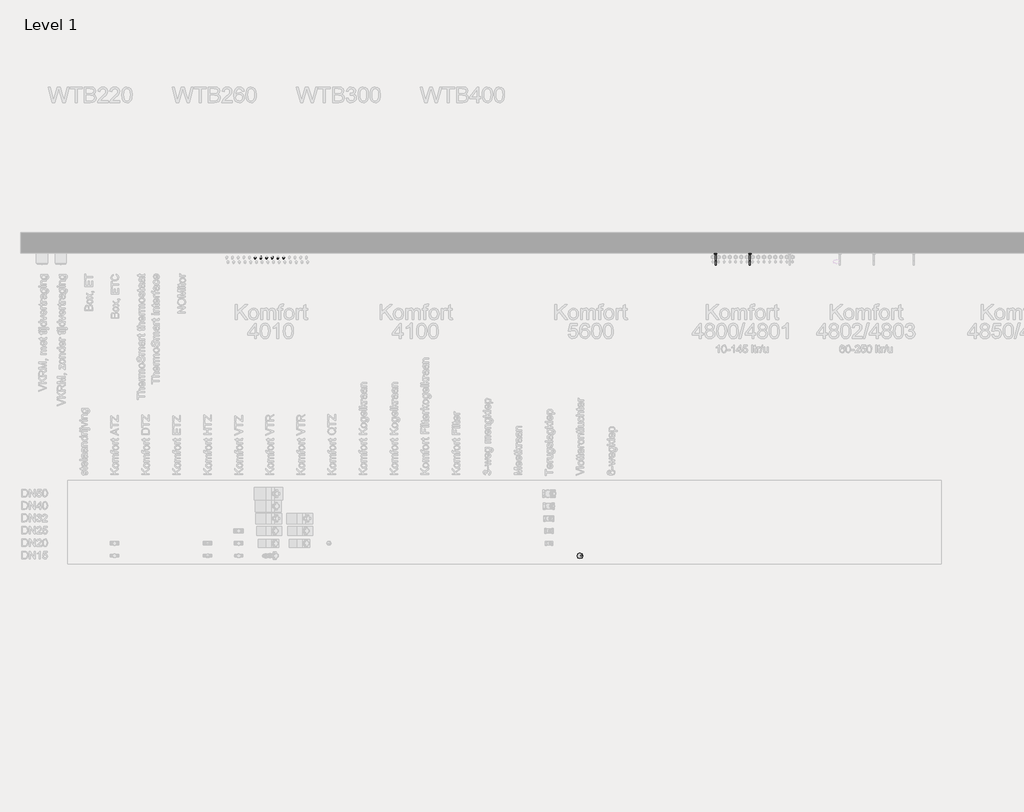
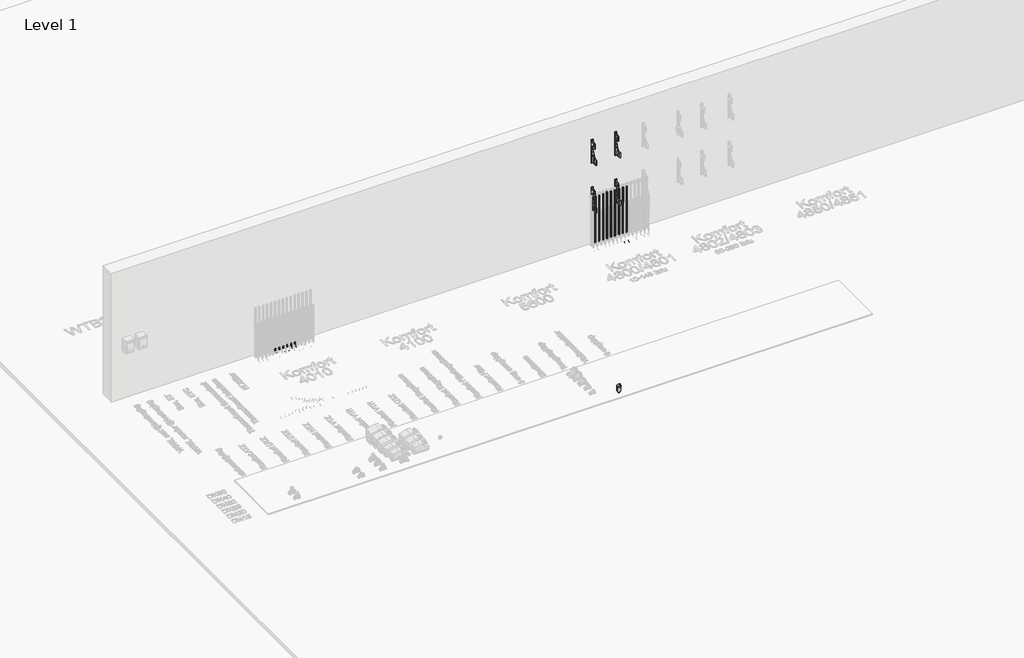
# One storey, part 6 of 34: 39 pipe segments, 11 pipe fittings, 4 proxies, 1 valve.
"""IFC4 building model written with IfcOpenShell, lengths in millimetres."""

from ifc_helpers import new_model, si_unit, point, frame, frame_2d, origin, place, context, project, spatial, circle_curve, trimmed, segment, composite_curve, outline, extrude, transform, mapped, element, save
from components import mechanical_equipment_e809440a, comfort_pipe_plus_5c14e1aa, comfort_pipe_plus_d9ac523e, valve_2dd8f752

model = new_model("IFC4")

# Units and contexts
model_context = context("Model", 3, world=origin())
ifc_project = project(units=[si_unit("LENGTHUNIT", "METRE", prefix="MILLI")], contexts=[model_context])

# Site, building, storey
site = spatial("IfcSite", under=ifc_project)
building = spatial("IfcBuilding", under=site)
storey = spatial("IfcBuildingStorey", under=building, Name="Level 1", Elevation=0.0)

# Proxies
placement = place(None, origin())
mechanical_equipment_shape = mechanical_equipment_e809440a(model_context)
element("IfcBuildingElementProxy", 1, Name="400_56_KOMF_montagebeugel_2 : 400_56_KOMF_montagebeugel_2", ObjectType="400_56_KOMF_montagebeugel_2 : 400_56_KOMF_montagebeugel_2", at=placement, inside=storey, context=model_context, shape_type="MappedRepresentation", body=[
    mapped(mechanical_equipment_shape, transform((-10536.6827235, 7589.9863889, 1200.0), x_axis=(1.0, 0.0, 0.0), y_axis=(0.0, 0.0, 1.0), z_axis=(0.0, -1.0, 0.0))),
])
element("IfcBuildingElementProxy", 2, Name="400_56_KOMF_montagebeugel_2 : 400_56_KOMF_montagebeugel_2", ObjectType="400_56_KOMF_montagebeugel_2 : 400_56_KOMF_montagebeugel_2", at=placement, inside=storey, context=model_context, shape_type="MappedRepresentation", body=[
    mapped(mechanical_equipment_shape, transform((-10206.6827235, 7589.9863889, 1200.0), x_axis=(1.0, 0.0, 0.0), y_axis=(0.0, 0.0, 1.0), z_axis=(0.0, -1.0, 0.0))),
])
element("IfcBuildingElementProxy", 3, Name="400_56_KOMF_montagebeugel_2 : 400_56_KOMF_montagebeugel_2", ObjectType="400_56_KOMF_montagebeugel_2 : 400_56_KOMF_montagebeugel_2", at=placement, inside=storey, context=model_context, shape_type="MappedRepresentation", body=[
    mapped(mechanical_equipment_shape, transform((-10536.6827235, 7589.9863889, 500.0), x_axis=(1.0, 0.0, 0.0), y_axis=(0.0, 0.0, 1.0), z_axis=(0.0, -1.0, 0.0))),
])
element("IfcBuildingElementProxy", 4, Name="400_56_KOMF_montagebeugel_2 : 400_56_KOMF_montagebeugel_2", ObjectType="400_56_KOMF_montagebeugel_2 : 400_56_KOMF_montagebeugel_2", at=placement, inside=storey, context=model_context, shape_type="MappedRepresentation", body=[
    mapped(mechanical_equipment_shape, transform((-10206.6827235, 7589.9863889, 500.0), x_axis=(1.0, 0.0, 0.0), y_axis=(0.0, 0.0, 1.0), z_axis=(0.0, -1.0, 0.0))),
])

# Pipe fittings
comfort_pipe_plus_shape = comfort_pipe_plus_5c14e1aa(model_context)
element("IfcPipeFitting", 5, ObjectType="400_5-_Uponor_curved_Elbow : Comfort pipe PLUS", at=placement, inside=storey, context=model_context, shape_type="MappedRepresentation", body=[
    mapped(comfort_pipe_plus_shape, transform((-14729.4849522, 7437.4403177, -40.0), x_axis=(-0.14136609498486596, -0.9899573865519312, 0.0), y_axis=(0.9899573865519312, -0.14136609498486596, 0.0), z_axis=(0.0, 0.0, 1.0))),
])
element("IfcPipeFitting", 6, ObjectType="400_5-_Uponor_curved_Elbow : Comfort pipe PLUS", at=placement, inside=storey, context=model_context, shape_type="MappedRepresentation", body=[
    mapped(comfort_pipe_plus_shape, transform((-14784.4849522, 7437.4403177, -40.0), x_axis=(-0.1413660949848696, -0.9899573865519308, 0.0), y_axis=(0.9899573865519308, -0.1413660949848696, 0.0), z_axis=(0.0, 0.0, 1.0))),
])
element("IfcPipeFitting", 7, ObjectType="400_5-_Uponor_curved_Elbow : Comfort pipe PLUS", at=placement, inside=storey, context=model_context, shape_type="MappedRepresentation", body=[
    mapped(comfort_pipe_plus_shape, transform((-14839.4849522, 7437.4403177, -40.0), x_axis=(-0.1413660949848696, -0.9899573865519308, 0.0), y_axis=(0.9899573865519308, -0.1413660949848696, 0.0), z_axis=(0.0, 0.0, 1.0))),
])
element("IfcPipeFitting", 8, ObjectType="400_5-_Uponor_curved_Elbow : Comfort pipe PLUS", at=placement, inside=storey, context=model_context, shape_type="MappedRepresentation", body=[
    mapped(comfort_pipe_plus_shape, transform((-14894.4849522, 7437.4403177, -40.0), x_axis=(-0.14136609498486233, -0.9899573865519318, 0.0), y_axis=(0.9899573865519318, -0.14136609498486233, 0.0), z_axis=(0.0, 0.0, 1.0))),
])
element("IfcPipeFitting", 9, ObjectType="400_5-_Uponor_curved_Elbow : Comfort pipe PLUS", at=placement, inside=storey, context=model_context, shape_type="MappedRepresentation", body=[
    mapped(comfort_pipe_plus_shape, transform((-14949.4849522, 7437.4403177, -40.0), x_axis=(-0.14136609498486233, -0.9899573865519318, 0.0), y_axis=(0.9899573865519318, -0.14136609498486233, 0.0), z_axis=(0.0, 0.0, 1.0))),
])
comfort_pipe_plus_2_shape = comfort_pipe_plus_d9ac523e(model_context)
element("IfcPipeFitting", 10, ObjectType="400_5-_Uponor_curved_Elbow : Comfort pipe PLUS", at=placement, inside=storey, context=model_context, shape_type="MappedRepresentation", body=[
    mapped(comfort_pipe_plus_2_shape, transform((-14712.9849522, 7552.9863889, -40.0), x_axis=(0.0, 0.0, -1.0), y_axis=(-0.14136609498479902, -0.9899573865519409, 0.0), z_axis=(-0.9899573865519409, 0.14136609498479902, 0.0))),
])
element("IfcPipeFitting", 11, ObjectType="400_5-_Uponor_curved_Elbow : Comfort pipe PLUS", at=placement, inside=storey, context=model_context, shape_type="MappedRepresentation", body=[
    mapped(comfort_pipe_plus_2_shape, transform((-14767.9849522, 7552.9863889, -40.0), x_axis=(0.0, 0.0, -1.0), y_axis=(-0.14136609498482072, -0.9899573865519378, 0.0), z_axis=(-0.9899573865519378, 0.14136609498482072, 0.0))),
])
element("IfcPipeFitting", 12, ObjectType="400_5-_Uponor_curved_Elbow : Comfort pipe PLUS", at=placement, inside=storey, context=model_context, shape_type="MappedRepresentation", body=[
    mapped(comfort_pipe_plus_2_shape, transform((-14822.9849522, 7552.9863889, -40.0), x_axis=(0.0, 0.0, -1.0), y_axis=(-0.14136609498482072, -0.9899573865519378, 0.0), z_axis=(-0.9899573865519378, 0.14136609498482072, 0.0))),
])
element("IfcPipeFitting", 13, ObjectType="400_5-_Uponor_curved_Elbow : Comfort pipe PLUS", at=placement, inside=storey, context=model_context, shape_type="MappedRepresentation", body=[
    mapped(comfort_pipe_plus_2_shape, transform((-14877.9849522, 7552.9863889, -40.0), x_axis=(0.0, 0.0, -1.0), y_axis=(-0.141366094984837, -0.9899573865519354, 0.0), z_axis=(-0.9899573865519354, 0.141366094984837, 0.0))),
])
element("IfcPipeFitting", 14, ObjectType="400_5-_Uponor_curved_Elbow : Comfort pipe PLUS", at=placement, inside=storey, context=model_context, shape_type="MappedRepresentation", body=[
    mapped(comfort_pipe_plus_2_shape, transform((-14932.9849522, 7552.9863889, -40.0), x_axis=(0.0, 0.0, -1.0), y_axis=(-0.141366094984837, -0.9899573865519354, 0.0), z_axis=(-0.9899573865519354, 0.141366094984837, 0.0))),
])
element("IfcPipeFitting", 15, ObjectType="400_5-_Uponor_curved_Elbow : Comfort pipe PLUS", at=placement, inside=storey, context=model_context, shape_type="MappedRepresentation", body=[
    mapped(comfort_pipe_plus_2_shape, transform((-14987.9849522, 7552.9863889, -40.0), x_axis=(0.0, 0.0, -1.0), y_axis=(-0.14136609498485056, -0.9899573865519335, 0.0), z_axis=(-0.9899573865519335, 0.14136609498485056, 0.0))),
])

# Pipe segments
element("IfcPipeSegment", 16, ObjectType="Uponor Comfort Pipe PLUS / VVL", at=placement, inside=storey, context=model_context, shape_type="SweptSolid", body=[
    extrude(outline(composite_curve([segment(trimmed(circle_curve(frame_2d((-43.6490683, -10509.1827235)), 8.5), [point((-43.6490683, -10500.6827235))], [point((-35.1490683, -10509.1827235))], False, "CARTESIAN"), True, "CONTINUOUS"), segment(trimmed(circle_curve(frame_2d((-43.6490683, -10509.1827235)), 8.5), [point((-35.1490683, -10509.1827235))], [point((-43.6490683, -10517.6827235))], False, "CARTESIAN"), True, "CONTINUOUS"), segment(trimmed(circle_curve(frame_2d((-43.6490683, -10509.1827235)), 8.5), [point((-43.6490683, -10517.6827235))], [point((-52.1490683, -10509.1827235))], False, "CARTESIAN"), True, "CONTINUOUS"), segment(trimmed(circle_curve(frame_2d((-43.6490683, -10509.1827235)), 8.5), [point((-52.1490683, -10509.1827235))], [point((-43.6490683, -10500.6827235))], False, "CARTESIAN"), True, "CONTINUOUS")], self_intersect=False)), frame((0.0, 7193.8942465, 0.0), z_axis=(0.0, 1.0, 0.0), x_axis=(0.0, 0.0, 1.0)), (0.0, 0.0, 1.0), 245.9527973),
])
element("IfcPipeSegment", 17, ObjectType="Uponor Comfort Pipe PLUS / VVL", at=placement, inside=storey, context=model_context, shape_type="SweptSolid", body=[
    extrude(outline(composite_curve([segment(trimmed(circle_curve(frame_2d((-43.6490683, -10536.6827235)), 8.5), [point((-43.6490683, -10545.1827235))], [point((-52.1490683, -10536.6827235))], False, "CARTESIAN"), True, "CONTINUOUS"), segment(trimmed(circle_curve(frame_2d((-43.6490683, -10536.6827235)), 8.5), [point((-52.1490683, -10536.6827235))], [point((-43.6490683, -10528.1827235))], False, "CARTESIAN"), True, "CONTINUOUS"), segment(trimmed(circle_curve(frame_2d((-43.6490683, -10536.6827235)), 8.5), [point((-43.6490683, -10528.1827235))], [point((-35.1490683, -10536.6827235))], False, "CARTESIAN"), True, "CONTINUOUS"), segment(trimmed(circle_curve(frame_2d((-43.6490683, -10536.6827235)), 8.5), [point((-35.1490683, -10536.6827235))], [point((-43.6490683, -10545.1827235))], False, "CARTESIAN"), True, "CONTINUOUS")], self_intersect=False)), frame((0.0, 7193.8942465, 0.0), z_axis=(0.0, 1.0, 0.0), x_axis=(0.0, 0.0, 1.0)), (0.0, 0.0, 1.0), 232.339135),
])
element("IfcPipeSegment", 18, ObjectType="Uponor Comfort Pipe PLUS / VVL", at=placement, inside=storey, context=model_context, shape_type="SweptSolid", body=[
    extrude(outline(composite_curve([segment(trimmed(circle_curve(frame_2d((0.0, 8.5)), 8.5), [point((8.5, 8.5))], [point((0.0, 0.0))], False, "CARTESIAN"), True, "CONTINUOUS"), segment(trimmed(circle_curve(frame_2d((0.0, 8.5)), 8.5), [point((0.0, 0.0))], [point((-8.5, 8.5))], False, "CARTESIAN"), True, "CONTINUOUS"), segment(trimmed(circle_curve(frame_2d((0.0, 8.5)), 8.5), [point((-8.5, 8.5))], [point((0.0, 17.0))], False, "CARTESIAN"), True, "CONTINUOUS"), segment(trimmed(circle_curve(frame_2d((0.0, 8.5)), 8.5), [point((0.0, 17.0))], [point((8.5, 8.5))], False, "CARTESIAN"), True, "CONTINUOUS")], self_intersect=False)), frame((-10534.878101, 7442.0254837, -35.1490683), z_axis=(0.22560146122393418, 0.9742196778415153, 0.0), x_axis=(0.9742196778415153, -0.22560146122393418, 0.0)), (0.0, 0.0, 1.0), 43.897212),
])
element("IfcPipeSegment", 19, ObjectType="Uponor Comfort Pipe PLUS / VVL", at=placement, inside=storey, context=model_context, shape_type="SweptSolid", body=[
    extrude(outline(composite_curve([segment(trimmed(circle_curve(frame_2d((-10509.1827235, 7552.9863889)), 8.5), [point((-10517.6827235, 7552.9863889))], [point((-10509.1827235, 7561.4863889))], False, "CARTESIAN"), True, "CONTINUOUS"), segment(trimmed(circle_curve(frame_2d((-10509.1827235, 7552.9863889)), 8.5), [point((-10509.1827235, 7561.4863889))], [point((-10500.6827235, 7552.9863889))], False, "CARTESIAN"), True, "CONTINUOUS"), segment(trimmed(circle_curve(frame_2d((-10509.1827235, 7552.9863889)), 8.5), [point((-10500.6827235, 7552.9863889))], [point((-10509.1827235, 7544.4863889))], False, "CARTESIAN"), True, "CONTINUOUS"), segment(trimmed(circle_curve(frame_2d((-10509.1827235, 7552.9863889)), 8.5), [point((-10509.1827235, 7544.4863889))], [point((-10517.6827235, 7552.9863889))], False, "CARTESIAN"), True, "CONTINUOUS")], self_intersect=False)), frame((0.0, 0.0, 26.3509317), z_axis=(0.0, 0.0, 1.0), x_axis=(1.0, 0.0, 0.0)), (0.0, 0.0, 1.0), 703.6490683),
])
element("IfcPipeSegment", 20, ObjectType="Uponor Comfort Pipe PLUS / VVL", at=placement, inside=storey, context=model_context, shape_type="SweptSolid", body=[
    extrude(outline(composite_curve([segment(trimmed(circle_curve(frame_2d((-43.6490683, -10454.1827235)), 8.5), [point((-43.6490683, -10445.6827235))], [point((-35.1490683, -10454.1827235))], False, "CARTESIAN"), True, "CONTINUOUS"), segment(trimmed(circle_curve(frame_2d((-43.6490683, -10454.1827235)), 8.5), [point((-35.1490683, -10454.1827235))], [point((-43.6490683, -10462.6827235))], False, "CARTESIAN"), True, "CONTINUOUS"), segment(trimmed(circle_curve(frame_2d((-43.6490683, -10454.1827235)), 8.5), [point((-43.6490683, -10462.6827235))], [point((-52.1490683, -10454.1827235))], False, "CARTESIAN"), True, "CONTINUOUS"), segment(trimmed(circle_curve(frame_2d((-43.6490683, -10454.1827235)), 8.5), [point((-52.1490683, -10454.1827235))], [point((-43.6490683, -10445.6827235))], False, "CARTESIAN"), True, "CONTINUOUS")], self_intersect=False)), frame((0.0, 7193.8942465, 0.0), z_axis=(0.0, 1.0, 0.0), x_axis=(0.0, 0.0, 1.0)), (0.0, 0.0, 1.0), 245.9527973),
])
element("IfcPipeSegment", 21, ObjectType="Uponor Comfort Pipe PLUS / VVL", at=placement, inside=storey, context=model_context, shape_type="SweptSolid", body=[
    extrude(outline(composite_curve([segment(trimmed(circle_curve(frame_2d((-43.6490683, -10481.6827235)), 8.5), [point((-43.6490683, -10490.1827235))], [point((-52.1490683, -10481.6827235))], False, "CARTESIAN"), True, "CONTINUOUS"), segment(trimmed(circle_curve(frame_2d((-43.6490683, -10481.6827235)), 8.5), [point((-52.1490683, -10481.6827235))], [point((-43.6490683, -10473.1827235))], False, "CARTESIAN"), True, "CONTINUOUS"), segment(trimmed(circle_curve(frame_2d((-43.6490683, -10481.6827235)), 8.5), [point((-43.6490683, -10473.1827235))], [point((-35.1490683, -10481.6827235))], False, "CARTESIAN"), True, "CONTINUOUS"), segment(trimmed(circle_curve(frame_2d((-43.6490683, -10481.6827235)), 8.5), [point((-35.1490683, -10481.6827235))], [point((-43.6490683, -10490.1827235))], False, "CARTESIAN"), True, "CONTINUOUS")], self_intersect=False)), frame((0.0, 7193.8942465, 0.0), z_axis=(0.0, 1.0, 0.0), x_axis=(0.0, 0.0, 1.0)), (0.0, 0.0, 1.0), 232.339135),
])
element("IfcPipeSegment", 22, ObjectType="Uponor Comfort Pipe PLUS / VVL", at=placement, inside=storey, context=model_context, shape_type="SweptSolid", body=[
    extrude(outline(composite_curve([segment(trimmed(circle_curve(frame_2d((0.0, 8.5)), 8.5), [point((8.5, 8.5))], [point((0.0, 0.0))], False, "CARTESIAN"), True, "CONTINUOUS"), segment(trimmed(circle_curve(frame_2d((0.0, 8.5)), 8.5), [point((0.0, 0.0))], [point((-8.5, 8.5))], False, "CARTESIAN"), True, "CONTINUOUS"), segment(trimmed(circle_curve(frame_2d((0.0, 8.5)), 8.5), [point((-8.5, 8.5))], [point((0.0, 17.0))], False, "CARTESIAN"), True, "CONTINUOUS"), segment(trimmed(circle_curve(frame_2d((0.0, 8.5)), 8.5), [point((0.0, 17.0))], [point((8.5, 8.5))], False, "CARTESIAN"), True, "CONTINUOUS")], self_intersect=False)), frame((-10479.878101, 7442.0254837, -35.1490683), z_axis=(0.2256014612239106, 0.9742196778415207, 0.0), x_axis=(0.9742196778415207, -0.2256014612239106, 0.0)), (0.0, 0.0, 1.0), 43.897212),
])
element("IfcPipeSegment", 23, ObjectType="Uponor Comfort Pipe PLUS / VVL", at=placement, inside=storey, context=model_context, shape_type="SweptSolid", body=[
    extrude(outline(composite_curve([segment(trimmed(circle_curve(frame_2d((-10454.1827235, 7552.9863889)), 8.5), [point((-10462.6827235, 7552.9863889))], [point((-10454.1827235, 7561.4863889))], False, "CARTESIAN"), True, "CONTINUOUS"), segment(trimmed(circle_curve(frame_2d((-10454.1827235, 7552.9863889)), 8.5), [point((-10454.1827235, 7561.4863889))], [point((-10445.6827235, 7552.9863889))], False, "CARTESIAN"), True, "CONTINUOUS"), segment(trimmed(circle_curve(frame_2d((-10454.1827235, 7552.9863889)), 8.5), [point((-10445.6827235, 7552.9863889))], [point((-10454.1827235, 7544.4863889))], False, "CARTESIAN"), True, "CONTINUOUS"), segment(trimmed(circle_curve(frame_2d((-10454.1827235, 7552.9863889)), 8.5), [point((-10454.1827235, 7544.4863889))], [point((-10462.6827235, 7552.9863889))], False, "CARTESIAN"), True, "CONTINUOUS")], self_intersect=False)), frame((0.0, 0.0, 26.3509317), z_axis=(0.0, 0.0, 1.0), x_axis=(1.0, 0.0, 0.0)), (0.0, 0.0, 1.0), 703.6490683),
])
element("IfcPipeSegment", 24, ObjectType="Uponor Comfort Pipe PLUS / VVL", at=placement, inside=storey, context=model_context, shape_type="SweptSolid", body=[
    extrude(outline(composite_curve([segment(trimmed(circle_curve(frame_2d((-43.6490683, -10399.1827235)), 8.5), [point((-43.6490683, -10390.6827235))], [point((-35.1490683, -10399.1827235))], False, "CARTESIAN"), True, "CONTINUOUS"), segment(trimmed(circle_curve(frame_2d((-43.6490683, -10399.1827235)), 8.5), [point((-35.1490683, -10399.1827235))], [point((-43.6490683, -10407.6827235))], False, "CARTESIAN"), True, "CONTINUOUS"), segment(trimmed(circle_curve(frame_2d((-43.6490683, -10399.1827235)), 8.5), [point((-43.6490683, -10407.6827235))], [point((-52.1490683, -10399.1827235))], False, "CARTESIAN"), True, "CONTINUOUS"), segment(trimmed(circle_curve(frame_2d((-43.6490683, -10399.1827235)), 8.5), [point((-52.1490683, -10399.1827235))], [point((-43.6490683, -10390.6827235))], False, "CARTESIAN"), True, "CONTINUOUS")], self_intersect=False)), frame((0.0, 7193.8942465, 0.0), z_axis=(0.0, 1.0, 0.0), x_axis=(0.0, 0.0, 1.0)), (0.0, 0.0, 1.0), 245.9527973),
])
element("IfcPipeSegment", 25, ObjectType="Uponor Comfort Pipe PLUS / VVL", at=placement, inside=storey, context=model_context, shape_type="SweptSolid", body=[
    extrude(outline(composite_curve([segment(trimmed(circle_curve(frame_2d((-43.6490683, -10426.6827235)), 8.5), [point((-43.6490683, -10435.1827235))], [point((-52.1490683, -10426.6827235))], False, "CARTESIAN"), True, "CONTINUOUS"), segment(trimmed(circle_curve(frame_2d((-43.6490683, -10426.6827235)), 8.5), [point((-52.1490683, -10426.6827235))], [point((-43.6490683, -10418.1827235))], False, "CARTESIAN"), True, "CONTINUOUS"), segment(trimmed(circle_curve(frame_2d((-43.6490683, -10426.6827235)), 8.5), [point((-43.6490683, -10418.1827235))], [point((-35.1490683, -10426.6827235))], False, "CARTESIAN"), True, "CONTINUOUS"), segment(trimmed(circle_curve(frame_2d((-43.6490683, -10426.6827235)), 8.5), [point((-35.1490683, -10426.6827235))], [point((-43.6490683, -10435.1827235))], False, "CARTESIAN"), True, "CONTINUOUS")], self_intersect=False)), frame((0.0, 7193.8942465, 0.0), z_axis=(0.0, 1.0, 0.0), x_axis=(0.0, 0.0, 1.0)), (0.0, 0.0, 1.0), 232.339135),
])
element("IfcPipeSegment", 26, ObjectType="Uponor Comfort Pipe PLUS / VVL", at=placement, inside=storey, context=model_context, shape_type="SweptSolid", body=[
    extrude(outline(composite_curve([segment(trimmed(circle_curve(frame_2d((0.0, 8.5)), 8.5), [point((8.5, 8.5))], [point((0.0, 0.0))], False, "CARTESIAN"), True, "CONTINUOUS"), segment(trimmed(circle_curve(frame_2d((0.0, 8.5)), 8.5), [point((0.0, 0.0))], [point((-8.5, 8.5))], False, "CARTESIAN"), True, "CONTINUOUS"), segment(trimmed(circle_curve(frame_2d((0.0, 8.5)), 8.5), [point((-8.5, 8.5))], [point((0.0, 17.0))], False, "CARTESIAN"), True, "CONTINUOUS"), segment(trimmed(circle_curve(frame_2d((0.0, 8.5)), 8.5), [point((0.0, 17.0))], [point((8.5, 8.5))], False, "CARTESIAN"), True, "CONTINUOUS")], self_intersect=False)), frame((-10424.878101, 7442.0254837, -35.1490683), z_axis=(0.22560146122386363, 0.9742196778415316, 0.0), x_axis=(0.9742196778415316, -0.22560146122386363, 0.0)), (0.0, 0.0, 1.0), 43.897212),
])
element("IfcPipeSegment", 27, ObjectType="Uponor Comfort Pipe PLUS / VVL", at=placement, inside=storey, context=model_context, shape_type="SweptSolid", body=[
    extrude(outline(composite_curve([segment(trimmed(circle_curve(frame_2d((-10399.1827235, 7552.9863889)), 8.5), [point((-10407.6827235, 7552.9863889))], [point((-10399.1827235, 7561.4863889))], False, "CARTESIAN"), True, "CONTINUOUS"), segment(trimmed(circle_curve(frame_2d((-10399.1827235, 7552.9863889)), 8.5), [point((-10399.1827235, 7561.4863889))], [point((-10390.6827235, 7552.9863889))], False, "CARTESIAN"), True, "CONTINUOUS"), segment(trimmed(circle_curve(frame_2d((-10399.1827235, 7552.9863889)), 8.5), [point((-10390.6827235, 7552.9863889))], [point((-10399.1827235, 7544.4863889))], False, "CARTESIAN"), True, "CONTINUOUS"), segment(trimmed(circle_curve(frame_2d((-10399.1827235, 7552.9863889)), 8.5), [point((-10399.1827235, 7544.4863889))], [point((-10407.6827235, 7552.9863889))], False, "CARTESIAN"), True, "CONTINUOUS")], self_intersect=False)), frame((0.0, 0.0, 26.3509317), z_axis=(0.0, 0.0, 1.0), x_axis=(1.0, 0.0, 0.0)), (0.0, 0.0, 1.0), 703.6490683),
])
element("IfcPipeSegment", 28, ObjectType="Uponor Comfort Pipe PLUS / VVL", at=placement, inside=storey, context=model_context, shape_type="SweptSolid", body=[
    extrude(outline(composite_curve([segment(trimmed(circle_curve(frame_2d((-43.6490683, -10344.1827235)), 8.5), [point((-43.6490683, -10335.6827235))], [point((-35.1490683, -10344.1827235))], False, "CARTESIAN"), True, "CONTINUOUS"), segment(trimmed(circle_curve(frame_2d((-43.6490683, -10344.1827235)), 8.5), [point((-35.1490683, -10344.1827235))], [point((-43.6490683, -10352.6827235))], False, "CARTESIAN"), True, "CONTINUOUS"), segment(trimmed(circle_curve(frame_2d((-43.6490683, -10344.1827235)), 8.5), [point((-43.6490683, -10352.6827235))], [point((-52.1490683, -10344.1827235))], False, "CARTESIAN"), True, "CONTINUOUS"), segment(trimmed(circle_curve(frame_2d((-43.6490683, -10344.1827235)), 8.5), [point((-52.1490683, -10344.1827235))], [point((-43.6490683, -10335.6827235))], False, "CARTESIAN"), True, "CONTINUOUS")], self_intersect=False)), frame((0.0, 7193.8942465, 0.0), z_axis=(0.0, 1.0, 0.0), x_axis=(0.0, 0.0, 1.0)), (0.0, 0.0, 1.0), 245.9527973),
])
element("IfcPipeSegment", 29, ObjectType="Uponor Comfort Pipe PLUS / VVL", at=placement, inside=storey, context=model_context, shape_type="SweptSolid", body=[
    extrude(outline(composite_curve([segment(trimmed(circle_curve(frame_2d((-43.6490683, -10371.6827235)), 8.5), [point((-43.6490683, -10363.1827235))], [point((-35.1490683, -10371.6827235))], False, "CARTESIAN"), True, "CONTINUOUS"), segment(trimmed(circle_curve(frame_2d((-43.6490683, -10371.6827235)), 8.5), [point((-35.1490683, -10371.6827235))], [point((-43.6490683, -10380.1827235))], False, "CARTESIAN"), True, "CONTINUOUS"), segment(trimmed(circle_curve(frame_2d((-43.6490683, -10371.6827235)), 8.5), [point((-43.6490683, -10380.1827235))], [point((-52.1490683, -10371.6827235))], False, "CARTESIAN"), True, "CONTINUOUS"), segment(trimmed(circle_curve(frame_2d((-43.6490683, -10371.6827235)), 8.5), [point((-52.1490683, -10371.6827235))], [point((-43.6490683, -10363.1827235))], False, "CARTESIAN"), True, "CONTINUOUS")], self_intersect=False)), frame((0.0, 7193.8942465, 0.0), z_axis=(0.0, 1.0, 0.0), x_axis=(0.0, 0.0, 1.0)), (0.0, 0.0, 1.0), 232.339135),
])
element("IfcPipeSegment", 30, ObjectType="Uponor Comfort Pipe PLUS / VVL", at=placement, inside=storey, context=model_context, shape_type="SweptSolid", body=[
    extrude(outline(composite_curve([segment(trimmed(circle_curve(frame_2d((0.0, 8.5)), 8.5), [point((8.5, 8.5))], [point((0.0, 0.0))], False, "CARTESIAN"), True, "CONTINUOUS"), segment(trimmed(circle_curve(frame_2d((0.0, 8.5)), 8.5), [point((0.0, 0.0))], [point((-8.5, 8.5))], False, "CARTESIAN"), True, "CONTINUOUS"), segment(trimmed(circle_curve(frame_2d((0.0, 8.5)), 8.5), [point((-8.5, 8.5))], [point((0.0, 17.0))], False, "CARTESIAN"), True, "CONTINUOUS"), segment(trimmed(circle_curve(frame_2d((0.0, 8.5)), 8.5), [point((0.0, 17.0))], [point((8.5, 8.5))], False, "CARTESIAN"), True, "CONTINUOUS")], self_intersect=False)), frame((-10369.878101, 7442.0254837, -35.1490683), z_axis=(0.22560146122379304, 0.974219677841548, 0.0), x_axis=(0.974219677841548, -0.22560146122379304, 0.0)), (0.0, 0.0, 1.0), 43.897212),
])
element("IfcPipeSegment", 31, ObjectType="Uponor Comfort Pipe PLUS / VVL", at=placement, inside=storey, context=model_context, shape_type="SweptSolid", body=[
    extrude(outline(composite_curve([segment(trimmed(circle_curve(frame_2d((-10344.1827235, 7552.9863889)), 8.5), [point((-10352.6827235, 7552.9863889))], [point((-10344.1827235, 7561.4863889))], False, "CARTESIAN"), True, "CONTINUOUS"), segment(trimmed(circle_curve(frame_2d((-10344.1827235, 7552.9863889)), 8.5), [point((-10344.1827235, 7561.4863889))], [point((-10335.6827235, 7552.9863889))], False, "CARTESIAN"), True, "CONTINUOUS"), segment(trimmed(circle_curve(frame_2d((-10344.1827235, 7552.9863889)), 8.5), [point((-10335.6827235, 7552.9863889))], [point((-10344.1827235, 7544.4863889))], False, "CARTESIAN"), True, "CONTINUOUS"), segment(trimmed(circle_curve(frame_2d((-10344.1827235, 7552.9863889)), 8.5), [point((-10344.1827235, 7544.4863889))], [point((-10352.6827235, 7552.9863889))], False, "CARTESIAN"), True, "CONTINUOUS")], self_intersect=False)), frame((0.0, 0.0, 26.3509317), z_axis=(0.0, 0.0, 1.0), x_axis=(1.0, 0.0, 0.0)), (0.0, 0.0, 1.0), 703.6490683),
])
element("IfcPipeSegment", 32, ObjectType="Uponor Comfort Pipe PLUS / VVL", at=placement, inside=storey, context=model_context, shape_type="SweptSolid", body=[
    extrude(outline(composite_curve([segment(trimmed(circle_curve(frame_2d((-43.6490683, -10289.1827235)), 8.5), [point((-43.6490683, -10280.6827235))], [point((-35.1490683, -10289.1827235))], False, "CARTESIAN"), True, "CONTINUOUS"), segment(trimmed(circle_curve(frame_2d((-43.6490683, -10289.1827235)), 8.5), [point((-35.1490683, -10289.1827235))], [point((-43.6490683, -10297.6827235))], False, "CARTESIAN"), True, "CONTINUOUS"), segment(trimmed(circle_curve(frame_2d((-43.6490683, -10289.1827235)), 8.5), [point((-43.6490683, -10297.6827235))], [point((-52.1490683, -10289.1827235))], False, "CARTESIAN"), True, "CONTINUOUS"), segment(trimmed(circle_curve(frame_2d((-43.6490683, -10289.1827235)), 8.5), [point((-52.1490683, -10289.1827235))], [point((-43.6490683, -10280.6827235))], False, "CARTESIAN"), True, "CONTINUOUS")], self_intersect=False)), frame((0.0, 7193.8942465, 0.0), z_axis=(0.0, 1.0, 0.0), x_axis=(0.0, 0.0, 1.0)), (0.0, 0.0, 1.0), 245.9527973),
])
element("IfcPipeSegment", 33, ObjectType="Uponor Comfort Pipe PLUS / VVL", at=placement, inside=storey, context=model_context, shape_type="SweptSolid", body=[
    extrude(outline(composite_curve([segment(trimmed(circle_curve(frame_2d((-43.6490683, -10316.6827235)), 8.5), [point((-43.6490683, -10308.1827235))], [point((-35.1490683, -10316.6827235))], False, "CARTESIAN"), True, "CONTINUOUS"), segment(trimmed(circle_curve(frame_2d((-43.6490683, -10316.6827235)), 8.5), [point((-35.1490683, -10316.6827235))], [point((-43.6490683, -10325.1827235))], False, "CARTESIAN"), True, "CONTINUOUS"), segment(trimmed(circle_curve(frame_2d((-43.6490683, -10316.6827235)), 8.5), [point((-43.6490683, -10325.1827235))], [point((-52.1490683, -10316.6827235))], False, "CARTESIAN"), True, "CONTINUOUS"), segment(trimmed(circle_curve(frame_2d((-43.6490683, -10316.6827235)), 8.5), [point((-52.1490683, -10316.6827235))], [point((-43.6490683, -10308.1827235))], False, "CARTESIAN"), True, "CONTINUOUS")], self_intersect=False)), frame((0.0, 7193.8942465, 0.0), z_axis=(0.0, 1.0, 0.0), x_axis=(0.0, 0.0, 1.0)), (0.0, 0.0, 1.0), 232.339135),
])
element("IfcPipeSegment", 34, ObjectType="Uponor Comfort Pipe PLUS / VVL", at=placement, inside=storey, context=model_context, shape_type="SweptSolid", body=[
    extrude(outline(composite_curve([segment(trimmed(circle_curve(frame_2d((0.0, 8.5)), 8.5), [point((8.5, 8.5))], [point((0.0, 0.0))], False, "CARTESIAN"), True, "CONTINUOUS"), segment(trimmed(circle_curve(frame_2d((0.0, 8.5)), 8.5), [point((0.0, 0.0))], [point((-8.5, 8.5))], False, "CARTESIAN"), True, "CONTINUOUS"), segment(trimmed(circle_curve(frame_2d((0.0, 8.5)), 8.5), [point((-8.5, 8.5))], [point((0.0, 17.0))], False, "CARTESIAN"), True, "CONTINUOUS"), segment(trimmed(circle_curve(frame_2d((0.0, 8.5)), 8.5), [point((0.0, 17.0))], [point((8.5, 8.5))], False, "CARTESIAN"), True, "CONTINUOUS")], self_intersect=False)), frame((-10314.878101, 7442.0254837, -35.1490683), z_axis=(0.22560146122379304, 0.974219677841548, 0.0), x_axis=(0.974219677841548, -0.22560146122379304, 0.0)), (0.0, 0.0, 1.0), 43.897212),
])
element("IfcPipeSegment", 35, ObjectType="Uponor Comfort Pipe PLUS / VVL", at=placement, inside=storey, context=model_context, shape_type="SweptSolid", body=[
    extrude(outline(composite_curve([segment(trimmed(circle_curve(frame_2d((-10289.1827235, 7552.9863889)), 8.5), [point((-10297.6827235, 7552.9863889))], [point((-10289.1827235, 7561.4863889))], False, "CARTESIAN"), True, "CONTINUOUS"), segment(trimmed(circle_curve(frame_2d((-10289.1827235, 7552.9863889)), 8.5), [point((-10289.1827235, 7561.4863889))], [point((-10280.6827235, 7552.9863889))], False, "CARTESIAN"), True, "CONTINUOUS"), segment(trimmed(circle_curve(frame_2d((-10289.1827235, 7552.9863889)), 8.5), [point((-10280.6827235, 7552.9863889))], [point((-10289.1827235, 7544.4863889))], False, "CARTESIAN"), True, "CONTINUOUS"), segment(trimmed(circle_curve(frame_2d((-10289.1827235, 7552.9863889)), 8.5), [point((-10289.1827235, 7544.4863889))], [point((-10297.6827235, 7552.9863889))], False, "CARTESIAN"), True, "CONTINUOUS")], self_intersect=False)), frame((0.0, 0.0, 26.3509317), z_axis=(0.0, 0.0, 1.0), x_axis=(1.0, 0.0, 0.0)), (0.0, 0.0, 1.0), 703.6490683),
])
element("IfcPipeSegment", 36, ObjectType="Uponor Comfort Pipe PLUS / VVL", at=placement, inside=storey, context=model_context, shape_type="SweptSolid", body=[
    extrude(outline(composite_curve([segment(trimmed(circle_curve(frame_2d((-43.6490683, -10234.1827235)), 8.5), [point((-43.6490683, -10225.6827235))], [point((-35.1490683, -10234.1827235))], False, "CARTESIAN"), True, "CONTINUOUS"), segment(trimmed(circle_curve(frame_2d((-43.6490683, -10234.1827235)), 8.5), [point((-35.1490683, -10234.1827235))], [point((-43.6490683, -10242.6827235))], False, "CARTESIAN"), True, "CONTINUOUS"), segment(trimmed(circle_curve(frame_2d((-43.6490683, -10234.1827235)), 8.5), [point((-43.6490683, -10242.6827235))], [point((-52.1490683, -10234.1827235))], False, "CARTESIAN"), True, "CONTINUOUS"), segment(trimmed(circle_curve(frame_2d((-43.6490683, -10234.1827235)), 8.5), [point((-52.1490683, -10234.1827235))], [point((-43.6490683, -10225.6827235))], False, "CARTESIAN"), True, "CONTINUOUS")], self_intersect=False)), frame((0.0, 7193.8942465, 0.0), z_axis=(0.0, 1.0, 0.0), x_axis=(0.0, 0.0, 1.0)), (0.0, 0.0, 1.0), 245.9527973),
])
element("IfcPipeSegment", 37, ObjectType="Uponor Comfort Pipe PLUS / VVL", at=placement, inside=storey, context=model_context, shape_type="SweptSolid", body=[
    extrude(outline(composite_curve([segment(trimmed(circle_curve(frame_2d((-43.6490683, -10261.6827235)), 8.5), [point((-43.6490683, -10253.1827235))], [point((-35.1490683, -10261.6827235))], False, "CARTESIAN"), True, "CONTINUOUS"), segment(trimmed(circle_curve(frame_2d((-43.6490683, -10261.6827235)), 8.5), [point((-35.1490683, -10261.6827235))], [point((-43.6490683, -10270.1827235))], False, "CARTESIAN"), True, "CONTINUOUS"), segment(trimmed(circle_curve(frame_2d((-43.6490683, -10261.6827235)), 8.5), [point((-43.6490683, -10270.1827235))], [point((-52.1490683, -10261.6827235))], False, "CARTESIAN"), True, "CONTINUOUS"), segment(trimmed(circle_curve(frame_2d((-43.6490683, -10261.6827235)), 8.5), [point((-52.1490683, -10261.6827235))], [point((-43.6490683, -10253.1827235))], False, "CARTESIAN"), True, "CONTINUOUS")], self_intersect=False)), frame((0.0, 7193.8942465, 0.0), z_axis=(0.0, 1.0, 0.0), x_axis=(0.0, 0.0, 1.0)), (0.0, 0.0, 1.0), 232.339135),
])
element("IfcPipeSegment", 38, ObjectType="Uponor Comfort Pipe PLUS / VVL", at=placement, inside=storey, context=model_context, shape_type="SweptSolid", body=[
    extrude(outline(composite_curve([segment(trimmed(circle_curve(frame_2d((0.0, 8.5)), 8.5), [point((8.5, 8.5))], [point((0.0, 0.0))], False, "CARTESIAN"), True, "CONTINUOUS"), segment(trimmed(circle_curve(frame_2d((0.0, 8.5)), 8.5), [point((0.0, 0.0))], [point((-8.5, 8.5))], False, "CARTESIAN"), True, "CONTINUOUS"), segment(trimmed(circle_curve(frame_2d((0.0, 8.5)), 8.5), [point((-8.5, 8.5))], [point((0.0, 17.0))], False, "CARTESIAN"), True, "CONTINUOUS"), segment(trimmed(circle_curve(frame_2d((0.0, 8.5)), 8.5), [point((0.0, 17.0))], [point((8.5, 8.5))], False, "CARTESIAN"), True, "CONTINUOUS")], self_intersect=False)), frame((-10259.878101, 7442.0254837, -35.1490683), z_axis=(0.22560146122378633, 0.9742196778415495, 0.0), x_axis=(0.9742196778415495, -0.22560146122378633, 0.0)), (0.0, 0.0, 1.0), 43.897212),
])
element("IfcPipeSegment", 39, ObjectType="Uponor Comfort Pipe PLUS / VVL", at=placement, inside=storey, context=model_context, shape_type="SweptSolid", body=[
    extrude(outline(composite_curve([segment(trimmed(circle_curve(frame_2d((-10234.1827235, 7552.9863889)), 8.5), [point((-10242.6827235, 7552.9863889))], [point((-10234.1827235, 7561.4863889))], False, "CARTESIAN"), True, "CONTINUOUS"), segment(trimmed(circle_curve(frame_2d((-10234.1827235, 7552.9863889)), 8.5), [point((-10234.1827235, 7561.4863889))], [point((-10225.6827235, 7552.9863889))], False, "CARTESIAN"), True, "CONTINUOUS"), segment(trimmed(circle_curve(frame_2d((-10234.1827235, 7552.9863889)), 8.5), [point((-10225.6827235, 7552.9863889))], [point((-10234.1827235, 7544.4863889))], False, "CARTESIAN"), True, "CONTINUOUS"), segment(trimmed(circle_curve(frame_2d((-10234.1827235, 7552.9863889)), 8.5), [point((-10234.1827235, 7544.4863889))], [point((-10242.6827235, 7552.9863889))], False, "CARTESIAN"), True, "CONTINUOUS")], self_intersect=False)), frame((0.0, 0.0, 26.3509317), z_axis=(0.0, 0.0, 1.0), x_axis=(1.0, 0.0, 0.0)), (0.0, 0.0, 1.0), 703.6490683),
])
element("IfcPipeSegment", 40, ObjectType="Uponor Comfort Pipe PLUS / VVL", at=placement, inside=storey, context=model_context, shape_type="SweptSolid", body=[
    extrude(outline(composite_curve([segment(trimmed(circle_curve(frame_2d((-43.6490683, -10179.1827235)), 8.5), [point((-43.6490683, -10170.6827235))], [point((-35.1490683, -10179.1827235))], False, "CARTESIAN"), True, "CONTINUOUS"), segment(trimmed(circle_curve(frame_2d((-43.6490683, -10179.1827235)), 8.5), [point((-35.1490683, -10179.1827235))], [point((-43.6490683, -10187.6827235))], False, "CARTESIAN"), True, "CONTINUOUS"), segment(trimmed(circle_curve(frame_2d((-43.6490683, -10179.1827235)), 8.5), [point((-43.6490683, -10187.6827235))], [point((-52.1490683, -10179.1827235))], False, "CARTESIAN"), True, "CONTINUOUS"), segment(trimmed(circle_curve(frame_2d((-43.6490683, -10179.1827235)), 8.5), [point((-52.1490683, -10179.1827235))], [point((-43.6490683, -10170.6827235))], False, "CARTESIAN"), True, "CONTINUOUS")], self_intersect=False)), frame((0.0, 7193.8942465, 0.0), z_axis=(0.0, 1.0, 0.0), x_axis=(0.0, 0.0, 1.0)), (0.0, 0.0, 1.0), 245.9527973),
])
element("IfcPipeSegment", 41, ObjectType="Uponor Comfort Pipe PLUS / VVL", at=placement, inside=storey, context=model_context, shape_type="SweptSolid", body=[
    extrude(outline(composite_curve([segment(trimmed(circle_curve(frame_2d((-43.6490683, -10206.6827235)), 8.5), [point((-43.6490683, -10215.1827235))], [point((-52.1490683, -10206.6827235))], False, "CARTESIAN"), True, "CONTINUOUS"), segment(trimmed(circle_curve(frame_2d((-43.6490683, -10206.6827235)), 8.5), [point((-52.1490683, -10206.6827235))], [point((-43.6490683, -10198.1827235))], False, "CARTESIAN"), True, "CONTINUOUS"), segment(trimmed(circle_curve(frame_2d((-43.6490683, -10206.6827235)), 8.5), [point((-43.6490683, -10198.1827235))], [point((-35.1490683, -10206.6827235))], False, "CARTESIAN"), True, "CONTINUOUS"), segment(trimmed(circle_curve(frame_2d((-43.6490683, -10206.6827235)), 8.5), [point((-35.1490683, -10206.6827235))], [point((-43.6490683, -10215.1827235))], False, "CARTESIAN"), True, "CONTINUOUS")], self_intersect=False)), frame((0.0, 7193.8942465, 0.0), z_axis=(0.0, 1.0, 0.0), x_axis=(0.0, 0.0, 1.0)), (0.0, 0.0, 1.0), 232.339135),
])
element("IfcPipeSegment", 42, ObjectType="Uponor Comfort Pipe PLUS / VVL", at=placement, inside=storey, context=model_context, shape_type="SweptSolid", body=[
    extrude(outline(composite_curve([segment(trimmed(circle_curve(frame_2d((0.0, 8.5)), 8.5), [point((8.5, 8.5))], [point((0.0, 0.0))], False, "CARTESIAN"), True, "CONTINUOUS"), segment(trimmed(circle_curve(frame_2d((0.0, 8.5)), 8.5), [point((0.0, 0.0))], [point((-8.5, 8.5))], False, "CARTESIAN"), True, "CONTINUOUS"), segment(trimmed(circle_curve(frame_2d((0.0, 8.5)), 8.5), [point((-8.5, 8.5))], [point((0.0, 17.0))], False, "CARTESIAN"), True, "CONTINUOUS"), segment(trimmed(circle_curve(frame_2d((0.0, 8.5)), 8.5), [point((0.0, 17.0))], [point((8.5, 8.5))], False, "CARTESIAN"), True, "CONTINUOUS")], self_intersect=False)), frame((-10204.878101, 7442.0254837, -35.1490683), z_axis=(0.22560146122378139, 0.9742196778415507, 0.0), x_axis=(0.9742196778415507, -0.22560146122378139, 0.0)), (0.0, 0.0, 1.0), 43.897212),
])
element("IfcPipeSegment", 43, ObjectType="Uponor Comfort Pipe PLUS / VVL", at=placement, inside=storey, context=model_context, shape_type="SweptSolid", body=[
    extrude(outline(composite_curve([segment(trimmed(circle_curve(frame_2d((-10179.1827235, 7552.9863889)), 8.5), [point((-10187.6827235, 7552.9863889))], [point((-10179.1827235, 7561.4863889))], False, "CARTESIAN"), True, "CONTINUOUS"), segment(trimmed(circle_curve(frame_2d((-10179.1827235, 7552.9863889)), 8.5), [point((-10179.1827235, 7561.4863889))], [point((-10170.6827235, 7552.9863889))], False, "CARTESIAN"), True, "CONTINUOUS"), segment(trimmed(circle_curve(frame_2d((-10179.1827235, 7552.9863889)), 8.5), [point((-10170.6827235, 7552.9863889))], [point((-10179.1827235, 7544.4863889))], False, "CARTESIAN"), True, "CONTINUOUS"), segment(trimmed(circle_curve(frame_2d((-10179.1827235, 7552.9863889)), 8.5), [point((-10179.1827235, 7544.4863889))], [point((-10187.6827235, 7552.9863889))], False, "CARTESIAN"), True, "CONTINUOUS")], self_intersect=False)), frame((0.0, 0.0, 26.3509317), z_axis=(0.0, 0.0, 1.0), x_axis=(1.0, 0.0, 0.0)), (0.0, 0.0, 1.0), 703.6490683),
])
element("IfcPipeSegment", 44, ObjectType="Uponor Comfort Pipe PLUS / VVL", at=placement, inside=storey, context=model_context, shape_type="SweptSolid", body=[
    extrude(outline(composite_curve([segment(trimmed(circle_curve(frame_2d((-43.6490683, -10124.1827235)), 8.5), [point((-43.6490683, -10115.6827235))], [point((-35.1490683, -10124.1827235))], False, "CARTESIAN"), True, "CONTINUOUS"), segment(trimmed(circle_curve(frame_2d((-43.6490683, -10124.1827235)), 8.5), [point((-35.1490683, -10124.1827235))], [point((-43.6490683, -10132.6827235))], False, "CARTESIAN"), True, "CONTINUOUS"), segment(trimmed(circle_curve(frame_2d((-43.6490683, -10124.1827235)), 8.5), [point((-43.6490683, -10132.6827235))], [point((-52.1490683, -10124.1827235))], False, "CARTESIAN"), True, "CONTINUOUS"), segment(trimmed(circle_curve(frame_2d((-43.6490683, -10124.1827235)), 8.5), [point((-52.1490683, -10124.1827235))], [point((-43.6490683, -10115.6827235))], False, "CARTESIAN"), True, "CONTINUOUS")], self_intersect=False)), frame((0.0, 7193.8942465, 0.0), z_axis=(0.0, 1.0, 0.0), x_axis=(0.0, 0.0, 1.0)), (0.0, 0.0, 1.0), 245.9527973),
])
element("IfcPipeSegment", 45, ObjectType="Uponor Comfort Pipe PLUS / VVL", at=placement, inside=storey, context=model_context, shape_type="SweptSolid", body=[
    extrude(outline(composite_curve([segment(trimmed(circle_curve(frame_2d((-43.6490683, -10151.6827235)), 8.5), [point((-43.6490683, -10160.1827235))], [point((-52.1490683, -10151.6827235))], False, "CARTESIAN"), True, "CONTINUOUS"), segment(trimmed(circle_curve(frame_2d((-43.6490683, -10151.6827235)), 8.5), [point((-52.1490683, -10151.6827235))], [point((-43.6490683, -10143.1827235))], False, "CARTESIAN"), True, "CONTINUOUS"), segment(trimmed(circle_curve(frame_2d((-43.6490683, -10151.6827235)), 8.5), [point((-43.6490683, -10143.1827235))], [point((-35.1490683, -10151.6827235))], False, "CARTESIAN"), True, "CONTINUOUS"), segment(trimmed(circle_curve(frame_2d((-43.6490683, -10151.6827235)), 8.5), [point((-35.1490683, -10151.6827235))], [point((-43.6490683, -10160.1827235))], False, "CARTESIAN"), True, "CONTINUOUS")], self_intersect=False)), frame((0.0, 7193.8942465, 0.0), z_axis=(0.0, 1.0, 0.0), x_axis=(0.0, 0.0, 1.0)), (0.0, 0.0, 1.0), 232.339135),
])
element("IfcPipeSegment", 46, ObjectType="Uponor Comfort Pipe PLUS / VVL", at=placement, inside=storey, context=model_context, shape_type="SweptSolid", body=[
    extrude(outline(composite_curve([segment(trimmed(circle_curve(frame_2d((0.0, -8.5)), 8.5), [point((-8.5, -8.5))], [point((0.0, 0.0))], False, "CARTESIAN"), True, "CONTINUOUS"), segment(trimmed(circle_curve(frame_2d((0.0, -8.5)), 8.5), [point((0.0, 0.0))], [point((8.5, -8.5))], False, "CARTESIAN"), True, "CONTINUOUS"), segment(trimmed(circle_curve(frame_2d((0.0, -8.5)), 8.5), [point((8.5, -8.5))], [point((0.0, -17.0))], False, "CARTESIAN"), True, "CONTINUOUS"), segment(trimmed(circle_curve(frame_2d((0.0, -8.5)), 8.5), [point((0.0, -17.0))], [point((-8.5, -8.5))], False, "CARTESIAN"), True, "CONTINUOUS")], self_intersect=False)), frame((-10149.878101, 7442.0254837, -52.1490683), z_axis=(0.2256014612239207, 0.9742196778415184, 0.0), x_axis=(0.9742196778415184, -0.2256014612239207, 0.0)), (0.0, 0.0, 1.0), 43.897212),
])
element("IfcPipeSegment", 47, ObjectType="Uponor Comfort Pipe PLUS / VVL", at=placement, inside=storey, context=model_context, shape_type="SweptSolid", body=[
    extrude(outline(composite_curve([segment(trimmed(circle_curve(frame_2d((-10124.1827235, 7552.9863889)), 8.5), [point((-10132.6827235, 7552.9863889))], [point((-10124.1827235, 7561.4863889))], False, "CARTESIAN"), True, "CONTINUOUS"), segment(trimmed(circle_curve(frame_2d((-10124.1827235, 7552.9863889)), 8.5), [point((-10124.1827235, 7561.4863889))], [point((-10115.6827235, 7552.9863889))], False, "CARTESIAN"), True, "CONTINUOUS"), segment(trimmed(circle_curve(frame_2d((-10124.1827235, 7552.9863889)), 8.5), [point((-10115.6827235, 7552.9863889))], [point((-10124.1827235, 7544.4863889))], False, "CARTESIAN"), True, "CONTINUOUS"), segment(trimmed(circle_curve(frame_2d((-10124.1827235, 7552.9863889)), 8.5), [point((-10124.1827235, 7544.4863889))], [point((-10132.6827235, 7552.9863889))], False, "CARTESIAN"), True, "CONTINUOUS")], self_intersect=False)), frame((0.0, 0.0, 26.3509317), z_axis=(0.0, 0.0, 1.0), x_axis=(1.0, 0.0, 0.0)), (0.0, 0.0, 1.0), 703.6490683),
])
element("IfcPipeSegment", 48, ObjectType="Uponor Comfort Pipe PLUS / VVL", at=placement, inside=storey, context=model_context, shape_type="SweptSolid", body=[
    extrude(outline(composite_curve([segment(trimmed(circle_curve(frame_2d((-43.6490683, -10069.1827235)), 8.5), [point((-43.6490683, -10060.6827235))], [point((-35.1490683, -10069.1827235))], False, "CARTESIAN"), True, "CONTINUOUS"), segment(trimmed(circle_curve(frame_2d((-43.6490683, -10069.1827235)), 8.5), [point((-35.1490683, -10069.1827235))], [point((-43.6490683, -10077.6827235))], False, "CARTESIAN"), True, "CONTINUOUS"), segment(trimmed(circle_curve(frame_2d((-43.6490683, -10069.1827235)), 8.5), [point((-43.6490683, -10077.6827235))], [point((-52.1490683, -10069.1827235))], False, "CARTESIAN"), True, "CONTINUOUS"), segment(trimmed(circle_curve(frame_2d((-43.6490683, -10069.1827235)), 8.5), [point((-52.1490683, -10069.1827235))], [point((-43.6490683, -10060.6827235))], False, "CARTESIAN"), True, "CONTINUOUS")], self_intersect=False)), frame((0.0, 7193.8942465, 0.0), z_axis=(0.0, 1.0, 0.0), x_axis=(0.0, 0.0, 1.0)), (0.0, 0.0, 1.0), 245.9527973),
])
element("IfcPipeSegment", 49, ObjectType="Uponor Comfort Pipe PLUS / VVL", at=placement, inside=storey, context=model_context, shape_type="SweptSolid", body=[
    extrude(outline(composite_curve([segment(trimmed(circle_curve(frame_2d((-43.6490683, -10096.6827235)), 8.5), [point((-43.6490683, -10105.1827235))], [point((-52.1490683, -10096.6827235))], False, "CARTESIAN"), True, "CONTINUOUS"), segment(trimmed(circle_curve(frame_2d((-43.6490683, -10096.6827235)), 8.5), [point((-52.1490683, -10096.6827235))], [point((-43.6490683, -10088.1827235))], False, "CARTESIAN"), True, "CONTINUOUS"), segment(trimmed(circle_curve(frame_2d((-43.6490683, -10096.6827235)), 8.5), [point((-43.6490683, -10088.1827235))], [point((-35.1490683, -10096.6827235))], False, "CARTESIAN"), True, "CONTINUOUS"), segment(trimmed(circle_curve(frame_2d((-43.6490683, -10096.6827235)), 8.5), [point((-35.1490683, -10096.6827235))], [point((-43.6490683, -10105.1827235))], False, "CARTESIAN"), True, "CONTINUOUS")], self_intersect=False)), frame((0.0, 7193.8942465, 0.0), z_axis=(0.0, 1.0, 0.0), x_axis=(0.0, 0.0, 1.0)), (0.0, 0.0, 1.0), 232.339135),
])
element("IfcPipeSegment", 50, ObjectType="Uponor Comfort Pipe PLUS / VVL", at=placement, inside=storey, context=model_context, shape_type="SweptSolid", body=[
    extrude(outline(composite_curve([segment(trimmed(circle_curve(frame_2d((0.0, -8.5)), 8.5), [point((-8.5, -8.5))], [point((0.0, 0.0))], False, "CARTESIAN"), True, "CONTINUOUS"), segment(trimmed(circle_curve(frame_2d((0.0, -8.5)), 8.5), [point((0.0, 0.0))], [point((8.5, -8.5))], False, "CARTESIAN"), True, "CONTINUOUS"), segment(trimmed(circle_curve(frame_2d((0.0, -8.5)), 8.5), [point((8.5, -8.5))], [point((0.0, -17.0))], False, "CARTESIAN"), True, "CONTINUOUS"), segment(trimmed(circle_curve(frame_2d((0.0, -8.5)), 8.5), [point((0.0, -17.0))], [point((-8.5, -8.5))], False, "CARTESIAN"), True, "CONTINUOUS")], self_intersect=False)), frame((-10094.878101, 7442.0254837, -52.1490683), z_axis=(0.2256014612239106, 0.9742196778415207, 0.0), x_axis=(0.9742196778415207, -0.2256014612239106, 0.0)), (0.0, 0.0, 1.0), 43.897212),
])
element("IfcPipeSegment", 51, ObjectType="Uponor Comfort Pipe PLUS / VVL", at=placement, inside=storey, context=model_context, shape_type="SweptSolid", body=[
    extrude(outline(composite_curve([segment(trimmed(circle_curve(frame_2d((-10069.1827235, 7552.9863889)), 8.5), [point((-10077.6827235, 7552.9863889))], [point((-10069.1827235, 7561.4863889))], False, "CARTESIAN"), True, "CONTINUOUS"), segment(trimmed(circle_curve(frame_2d((-10069.1827235, 7552.9863889)), 8.5), [point((-10069.1827235, 7561.4863889))], [point((-10060.6827235, 7552.9863889))], False, "CARTESIAN"), True, "CONTINUOUS"), segment(trimmed(circle_curve(frame_2d((-10069.1827235, 7552.9863889)), 8.5), [point((-10060.6827235, 7552.9863889))], [point((-10069.1827235, 7544.4863889))], False, "CARTESIAN"), True, "CONTINUOUS"), segment(trimmed(circle_curve(frame_2d((-10069.1827235, 7552.9863889)), 8.5), [point((-10069.1827235, 7544.4863889))], [point((-10077.6827235, 7552.9863889))], False, "CARTESIAN"), True, "CONTINUOUS")], self_intersect=False)), frame((0.0, 0.0, 26.3509317), z_axis=(0.0, 0.0, 1.0), x_axis=(1.0, 0.0, 0.0)), (0.0, 0.0, 1.0), 703.6490683),
])
element("IfcPipeSegment", 52, ObjectType="Uponor Comfort Pipe PLUS / VVL", at=placement, inside=storey, context=model_context, shape_type="SweptSolid", body=[
    extrude(outline(composite_curve([segment(trimmed(circle_curve(frame_2d((-43.6490683, -10014.1827235)), 8.5), [point((-43.6490683, -10005.6827235))], [point((-35.1490683, -10014.1827235))], False, "CARTESIAN"), True, "CONTINUOUS"), segment(trimmed(circle_curve(frame_2d((-43.6490683, -10014.1827235)), 8.5), [point((-35.1490683, -10014.1827235))], [point((-43.6490683, -10022.6827235))], False, "CARTESIAN"), True, "CONTINUOUS"), segment(trimmed(circle_curve(frame_2d((-43.6490683, -10014.1827235)), 8.5), [point((-43.6490683, -10022.6827235))], [point((-52.1490683, -10014.1827235))], False, "CARTESIAN"), True, "CONTINUOUS"), segment(trimmed(circle_curve(frame_2d((-43.6490683, -10014.1827235)), 8.5), [point((-52.1490683, -10014.1827235))], [point((-43.6490683, -10005.6827235))], False, "CARTESIAN"), True, "CONTINUOUS")], self_intersect=False)), frame((0.0, 7193.8942465, 0.0), z_axis=(0.0, 1.0, 0.0), x_axis=(0.0, 0.0, 1.0)), (0.0, 0.0, 1.0), 245.9527973),
])
element("IfcPipeSegment", 53, ObjectType="Uponor Comfort Pipe PLUS / VVL", at=placement, inside=storey, context=model_context, shape_type="SweptSolid", body=[
    extrude(outline(composite_curve([segment(trimmed(circle_curve(frame_2d((-43.6490683, -10041.6827235)), 8.5), [point((-43.6490683, -10050.1827235))], [point((-52.1490683, -10041.6827235))], False, "CARTESIAN"), True, "CONTINUOUS"), segment(trimmed(circle_curve(frame_2d((-43.6490683, -10041.6827235)), 8.5), [point((-52.1490683, -10041.6827235))], [point((-43.6490683, -10033.1827235))], False, "CARTESIAN"), True, "CONTINUOUS"), segment(trimmed(circle_curve(frame_2d((-43.6490683, -10041.6827235)), 8.5), [point((-43.6490683, -10033.1827235))], [point((-35.1490683, -10041.6827235))], False, "CARTESIAN"), True, "CONTINUOUS"), segment(trimmed(circle_curve(frame_2d((-43.6490683, -10041.6827235)), 8.5), [point((-35.1490683, -10041.6827235))], [point((-43.6490683, -10050.1827235))], False, "CARTESIAN"), True, "CONTINUOUS")], self_intersect=False)), frame((0.0, 7193.8942465, 0.0), z_axis=(0.0, 1.0, 0.0), x_axis=(0.0, 0.0, 1.0)), (0.0, 0.0, 1.0), 232.339135),
])
element("IfcPipeSegment", 54, ObjectType="Uponor Comfort Pipe PLUS / VVL", at=placement, inside=storey, context=model_context, shape_type="SweptSolid", body=[
    extrude(outline(composite_curve([segment(trimmed(circle_curve(frame_2d((0.0, -8.5)), 8.5), [point((-8.5, -8.5))], [point((0.0, 0.0))], False, "CARTESIAN"), True, "CONTINUOUS"), segment(trimmed(circle_curve(frame_2d((0.0, -8.5)), 8.5), [point((0.0, 0.0))], [point((8.5, -8.5))], False, "CARTESIAN"), True, "CONTINUOUS"), segment(trimmed(circle_curve(frame_2d((0.0, -8.5)), 8.5), [point((8.5, -8.5))], [point((0.0, -17.0))], False, "CARTESIAN"), True, "CONTINUOUS"), segment(trimmed(circle_curve(frame_2d((0.0, -8.5)), 8.5), [point((0.0, -17.0))], [point((-8.5, -8.5))], False, "CARTESIAN"), True, "CONTINUOUS")], self_intersect=False)), frame((-10039.878101, 7442.0254837, -52.1490683), z_axis=(0.22560146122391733, 0.9742196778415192, 0.0), x_axis=(0.9742196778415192, -0.22560146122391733, 0.0)), (0.0, 0.0, 1.0), 43.897212),
])

# Valve
valve_shape = valve_2dd8f752(model_context)
element("IfcValve", 55, ObjectType="400_56_KOMF_Vlotterontluchter : 400_56_KOMF_Vlotterontluchter", at=placement, inside=storey, context=model_context, shape_type="MappedRepresentation", body=[
    mapped(valve_shape, transform((-11848.9250614, 4663.7252553, 30.0), x_axis=(1.0, 0.0, 0.0), y_axis=(0.0, 1.0, 0.0), z_axis=(0.0, 0.0, 1.0))),
])

save(model, "model.ifc")
